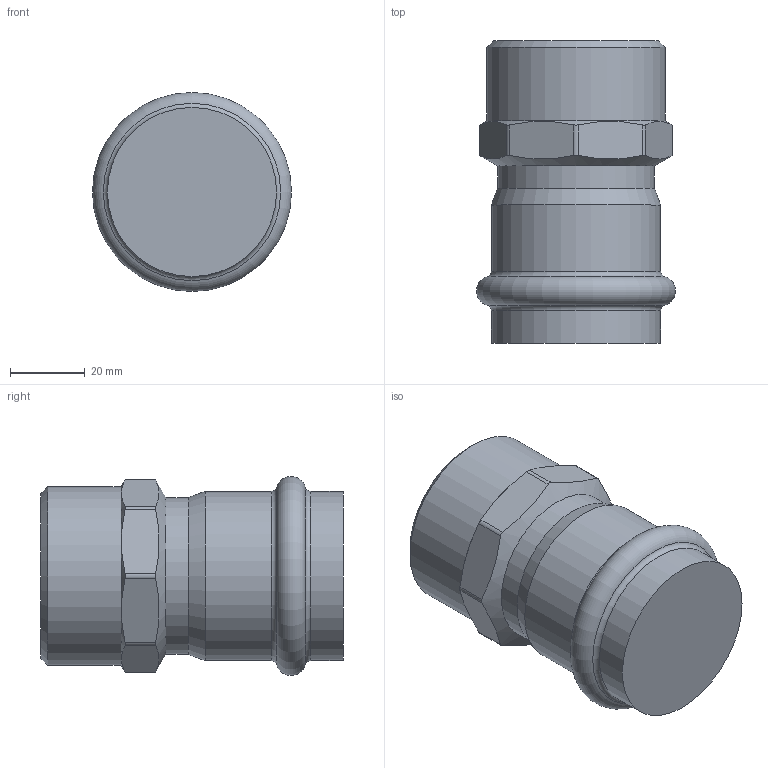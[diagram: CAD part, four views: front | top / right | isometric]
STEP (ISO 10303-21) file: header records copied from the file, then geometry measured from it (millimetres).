
FILE_DESCRIPTION(('STEP AP203'), '1');
FILE_NAME('VTi.901.I.004208', '', ('UNSPECIFIED'), ('UNSPECIFIED'), 'C3D Converter', 'C3D Toolkit', '');
FILE_SCHEMA(('CONFIG_CONTROL_DESIGN'));
Length unit declared in the file: millimetre
Bounding box: 53.28 x 81 x 53.28 mm (x, y, z)
Volume: 139248.1 mm3; surface area: 16142.8 mm2
Topology: 1 solids, 1 shells, 29 faces, 73 edges, 46 vertices
Faces by surface type: cylinder 12, plane 10, cone 4, torus 3
Full cylindrical faces by diameter (mm): 42 x1, 45.3 x2, 47.803 x1
Entity records: 1855 total; most frequent: CARTESIAN_POINT 1221, ORIENTED_EDGE 124, DIRECTION 100, EDGE_CURVE 62, VERTEX_POINT 46, AXIS2_PLACEMENT_3D 42, EDGE_LOOP 40, B_SPLINE_CURVE_WITH_KNOTS 34
